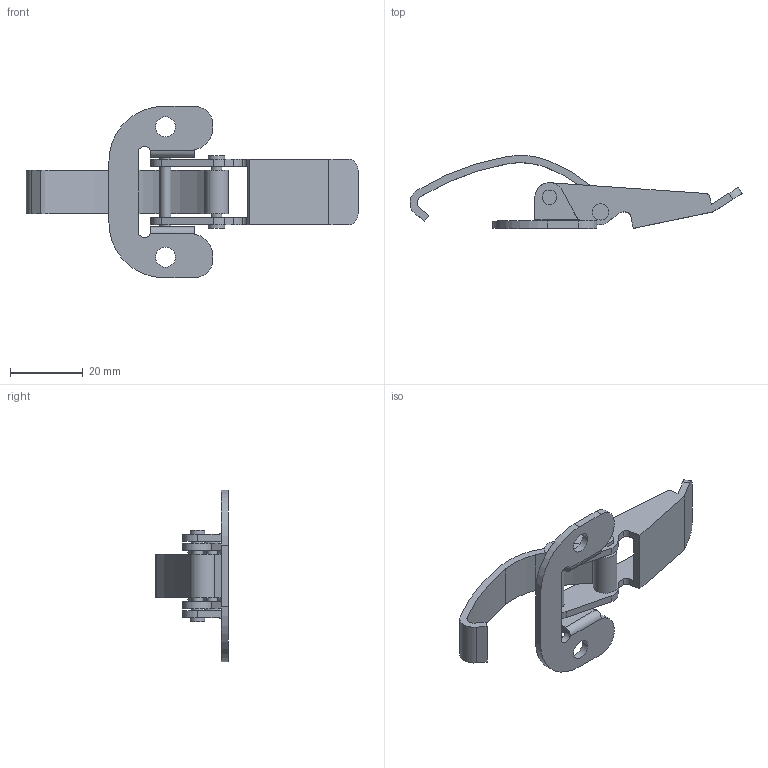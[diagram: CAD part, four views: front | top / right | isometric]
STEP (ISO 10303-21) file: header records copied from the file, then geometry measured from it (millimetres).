
FILE_DESCRIPTION( ( 'Unknown' ), '1' );
FILE_NAME( 'N:/HoKon Zeichnungen/A-1 Sp.Verschlusse/6606/SE/6606.06.04.stp', 'Unknown', ( 'Unknown' ), ( 'Unknown' ), 'PSStep 14.0', 'Unknown', ' ' );
FILE_SCHEMA( ( 'AUTOMOTIVE_DESIGN { 1 0 10303 214 1 1 1 1 }' ) );
Length unit declared in the file: millimetre
Products named in the file (4): Assem1; 1; 2; 3
Bounding box: 91.05 x 19.98 x 47 mm (x, y, z)
Volume: 13037.5 mm3; surface area: 15668.2 mm2
Topology: 6 solids, 6 shells, 188 faces, 496 edges, 328 vertices
Faces by surface type: cylinder 94, plane 94
Full cylindrical faces by diameter (mm): 3 x8, 4 x4, 4.5 x4, 5.5 x4
Entity records: 3724 total; most frequent: DIRECTION 526, CARTESIAN_POINT 510, ORIENTED_EDGE 476, EDGE_CURVE 238, AXIS2_PLACEMENT_3D 192, VERTEX_POINT 164, LINE 142, VECTOR 142
